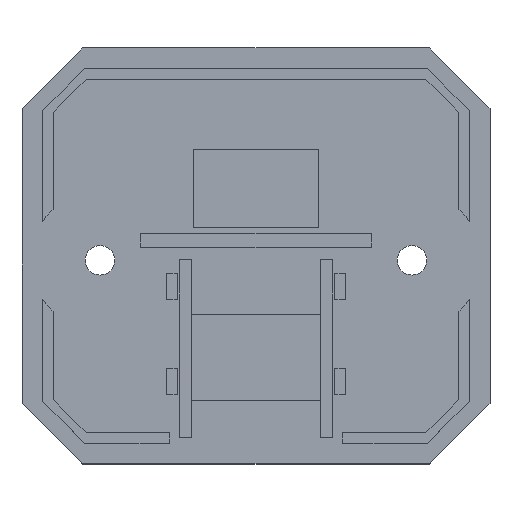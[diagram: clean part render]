
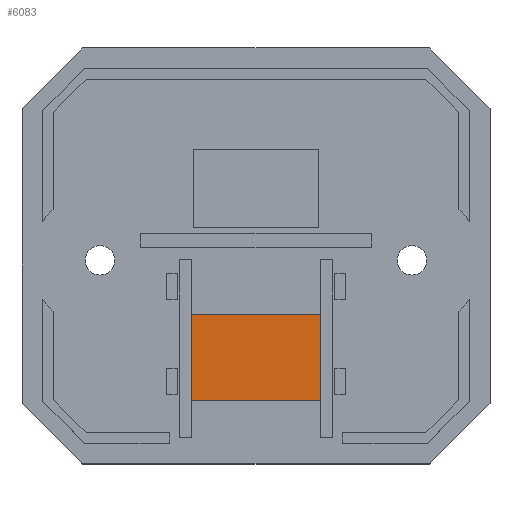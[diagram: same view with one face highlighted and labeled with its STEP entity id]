
A CAD part, top view. The second image highlights one B-rep face of the part: STEP entity #6083.
In plain terms, the highlighted planar face has unit normal (0, 0, 1).
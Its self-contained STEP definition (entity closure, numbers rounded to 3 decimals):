
#1540 = PLANE('',#1541);
#1541 = AXIS2_PLACEMENT_3D('',#1542,#1543,#1544);
#1542 = CARTESIAN_POINT('',(-7.5,-6.73,1.));
#1543 = DIRECTION('',(0.,1.,0.));
#1544 = DIRECTION('',(0.,0.,1.));
#1703 = PLANE('',#1704);
#1704 = AXIS2_PLACEMENT_3D('',#1705,#1706,#1707);
#1705 = CARTESIAN_POINT('',(-7.5,-16.73,1.));
#1706 = DIRECTION('',(0.,1.,0.));
#1707 = DIRECTION('',(0.,0.,1.));
#4318 = EDGE_CURVE('',#4319,#4321,#4323,.T.);
#4319 = VERTEX_POINT('',#4320);
#4320 = CARTESIAN_POINT('',(-7.5,-6.73,1.));
#4321 = VERTEX_POINT('',#4322);
#4322 = CARTESIAN_POINT('',(7.5,-6.73,1.));
#4323 = SURFACE_CURVE('',#4324,(#4328,#4335),.PCURVE_S1.);
#4324 = LINE('',#4325,#4326);
#4325 = CARTESIAN_POINT('',(-7.5,-6.73,1.));
#4326 = VECTOR('',#4327,1.);
#4327 = DIRECTION('',(1.,0.,0.));
#4328 = PCURVE('',#1540,#4329);
#4329 = DEFINITIONAL_REPRESENTATION('',(#4330),#4334);
#4330 = LINE('',#4331,#4332);
#4331 = CARTESIAN_POINT('',(0.,0.));
#4332 = VECTOR('',#4333,1.);
#4333 = DIRECTION('',(0.,1.));
#4334 = ( GEOMETRIC_REPRESENTATION_CONTEXT(2) 
PARAMETRIC_REPRESENTATION_CONTEXT() REPRESENTATION_CONTEXT('2D SPACE',''
  ) );
#4335 = PCURVE('',#4336,#4341);
#4336 = PLANE('',#4337);
#4337 = AXIS2_PLACEMENT_3D('',#4338,#4339,#4340);
#4338 = CARTESIAN_POINT('',(-7.5,-16.73,1.));
#4339 = DIRECTION('',(0.,0.,1.));
#4340 = DIRECTION('',(1.,0.,0.));
#4341 = DEFINITIONAL_REPRESENTATION('',(#4342),#4346);
#4342 = LINE('',#4343,#4344);
#4343 = CARTESIAN_POINT('',(0.,10.));
#4344 = VECTOR('',#4345,1.);
#4345 = DIRECTION('',(1.,0.));
#4346 = ( GEOMETRIC_REPRESENTATION_CONTEXT(2) 
PARAMETRIC_REPRESENTATION_CONTEXT() REPRESENTATION_CONTEXT('2D SPACE',''
  ) );
#4364 = PLANE('',#4365);
#4365 = AXIS2_PLACEMENT_3D('',#4366,#4367,#4368);
#4366 = CARTESIAN_POINT('',(-7.5,-16.73,1.));
#4367 = DIRECTION('',(1.,0.,0.));
#4368 = DIRECTION('',(0.,0.,1.));
#4440 = PLANE('',#4441);
#4441 = AXIS2_PLACEMENT_3D('',#4442,#4443,#4444);
#4442 = CARTESIAN_POINT('',(7.5,-16.73,1.));
#4443 = DIRECTION('',(1.,0.,0.));
#4444 = DIRECTION('',(0.,0.,1.));
#4455 = EDGE_CURVE('',#4456,#4458,#4460,.T.);
#4456 = VERTEX_POINT('',#4457);
#4457 = CARTESIAN_POINT('',(-7.5,-16.73,1.));
#4458 = VERTEX_POINT('',#4459);
#4459 = CARTESIAN_POINT('',(7.5,-16.73,1.));
#4460 = SURFACE_CURVE('',#4461,(#4465,#4472),.PCURVE_S1.);
#4461 = LINE('',#4462,#4463);
#4462 = CARTESIAN_POINT('',(-7.5,-16.73,1.));
#4463 = VECTOR('',#4464,1.);
#4464 = DIRECTION('',(1.,0.,0.));
#4465 = PCURVE('',#1703,#4466);
#4466 = DEFINITIONAL_REPRESENTATION('',(#4467),#4471);
#4467 = LINE('',#4468,#4469);
#4468 = CARTESIAN_POINT('',(0.,0.));
#4469 = VECTOR('',#4470,1.);
#4470 = DIRECTION('',(0.,1.));
#4471 = ( GEOMETRIC_REPRESENTATION_CONTEXT(2) 
PARAMETRIC_REPRESENTATION_CONTEXT() REPRESENTATION_CONTEXT('2D SPACE',''
  ) );
#4472 = PCURVE('',#4336,#4473);
#4473 = DEFINITIONAL_REPRESENTATION('',(#4474),#4478);
#4474 = LINE('',#4475,#4476);
#4475 = CARTESIAN_POINT('',(0.,0.));
#4476 = VECTOR('',#4477,1.);
#4477 = DIRECTION('',(1.,0.));
#4478 = ( GEOMETRIC_REPRESENTATION_CONTEXT(2) 
PARAMETRIC_REPRESENTATION_CONTEXT() REPRESENTATION_CONTEXT('2D SPACE',''
  ) );
#6083 = ADVANCED_FACE('',(#6084),#4336,.T.);
#6084 = FACE_BOUND('',#6085,.T.);
#6085 = EDGE_LOOP('',(#6086,#6107,#6108,#6129));
#6086 = ORIENTED_EDGE('',*,*,#6087,.F.);
#6087 = EDGE_CURVE('',#4456,#4319,#6088,.T.);
#6088 = SURFACE_CURVE('',#6089,(#6093,#6100),.PCURVE_S1.);
#6089 = LINE('',#6090,#6091);
#6090 = CARTESIAN_POINT('',(-7.5,-16.73,1.));
#6091 = VECTOR('',#6092,1.);
#6092 = DIRECTION('',(0.,1.,0.));
#6093 = PCURVE('',#4336,#6094);
#6094 = DEFINITIONAL_REPRESENTATION('',(#6095),#6099);
#6095 = LINE('',#6096,#6097);
#6096 = CARTESIAN_POINT('',(0.,0.));
#6097 = VECTOR('',#6098,1.);
#6098 = DIRECTION('',(0.,1.));
#6099 = ( GEOMETRIC_REPRESENTATION_CONTEXT(2) 
PARAMETRIC_REPRESENTATION_CONTEXT() REPRESENTATION_CONTEXT('2D SPACE',''
  ) );
#6100 = PCURVE('',#4364,#6101);
#6101 = DEFINITIONAL_REPRESENTATION('',(#6102),#6106);
#6102 = LINE('',#6103,#6104);
#6103 = CARTESIAN_POINT('',(0.,0.));
#6104 = VECTOR('',#6105,1.);
#6105 = DIRECTION('',(0.,-1.));
#6106 = ( GEOMETRIC_REPRESENTATION_CONTEXT(2) 
PARAMETRIC_REPRESENTATION_CONTEXT() REPRESENTATION_CONTEXT('2D SPACE',''
  ) );
#6107 = ORIENTED_EDGE('',*,*,#4455,.T.);
#6108 = ORIENTED_EDGE('',*,*,#6109,.T.);
#6109 = EDGE_CURVE('',#4458,#4321,#6110,.T.);
#6110 = SURFACE_CURVE('',#6111,(#6115,#6122),.PCURVE_S1.);
#6111 = LINE('',#6112,#6113);
#6112 = CARTESIAN_POINT('',(7.5,-16.73,1.));
#6113 = VECTOR('',#6114,1.);
#6114 = DIRECTION('',(0.,1.,0.));
#6115 = PCURVE('',#4336,#6116);
#6116 = DEFINITIONAL_REPRESENTATION('',(#6117),#6121);
#6117 = LINE('',#6118,#6119);
#6118 = CARTESIAN_POINT('',(15.,0.));
#6119 = VECTOR('',#6120,1.);
#6120 = DIRECTION('',(0.,1.));
#6121 = ( GEOMETRIC_REPRESENTATION_CONTEXT(2) 
PARAMETRIC_REPRESENTATION_CONTEXT() REPRESENTATION_CONTEXT('2D SPACE',''
  ) );
#6122 = PCURVE('',#4440,#6123);
#6123 = DEFINITIONAL_REPRESENTATION('',(#6124),#6128);
#6124 = LINE('',#6125,#6126);
#6125 = CARTESIAN_POINT('',(0.,0.));
#6126 = VECTOR('',#6127,1.);
#6127 = DIRECTION('',(0.,-1.));
#6128 = ( GEOMETRIC_REPRESENTATION_CONTEXT(2) 
PARAMETRIC_REPRESENTATION_CONTEXT() REPRESENTATION_CONTEXT('2D SPACE',''
  ) );
#6129 = ORIENTED_EDGE('',*,*,#4318,.F.);
